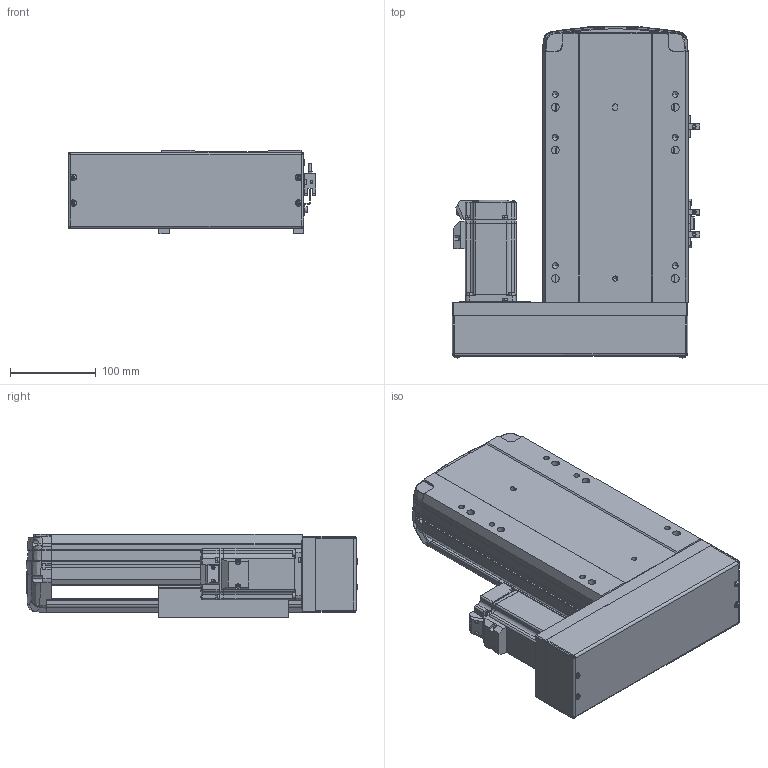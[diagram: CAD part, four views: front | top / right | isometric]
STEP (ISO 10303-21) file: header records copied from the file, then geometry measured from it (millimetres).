
FILE_DESCRIPTION (( 'STEP AP203' ), '1' );
FILE_NAME ('2.STEP', '2020-11-20T07:56:29', ( '' ), ( '' ), 'SwSTEP 2.0', 'SolidWorks 2016', '' );
FILE_SCHEMA (( 'CONFIG_CONTROL_DESIGN' ));
Length unit declared in the file: millimetre
Products named in the file (7): BTH17-BL-P40; BTH17-BL-HZ_賑釱; BTH17-BL-01; BTH17-BL-04; BTH17-BL-BM-BR-菁釱; BTH17-BL-02_100; 2
Assembly tree (8 placements, depth 2):
  2
    BTH17-BL-BM-BR-菁釱
    BTH17-BL-01
    BTH17-BL-02_100
    BTH17-BL-04  x3
    BTH17-BL-HZ_賑釱
    BTH17-BL-P40
Bounding box: 289.2 x 387.73 x 97 mm (x, y, z)
Volume: 3252753.5 mm3; surface area: 689186.5 mm2
Topology: 19 solids, 19 shells, 1927 faces, 5125 edges, 3289 vertices
Faces by surface type: plane 1052, cylinder 517, bspline 211, cone 100, torus 39, sphere 8
Entity records: 65265 total; most frequent: CARTESIAN_POINT 23087, ORIENTED_EDGE 9072, DIRECTION 7922, EDGE_CURVE 4536, VERTEX_POINT 2929, VECTOR 2666, LINE 2666, AXIS2_PLACEMENT_3D 2628
